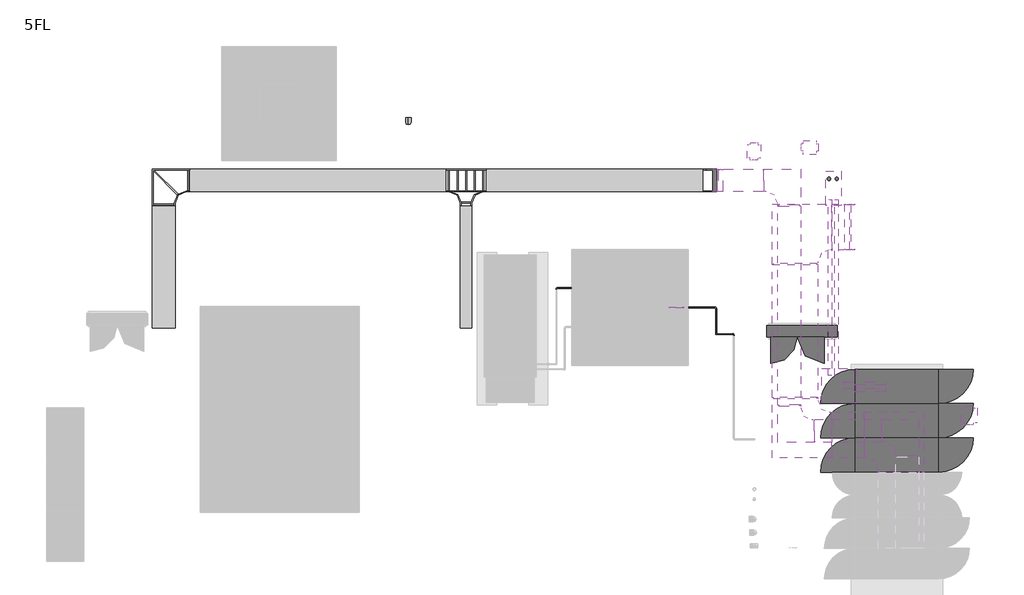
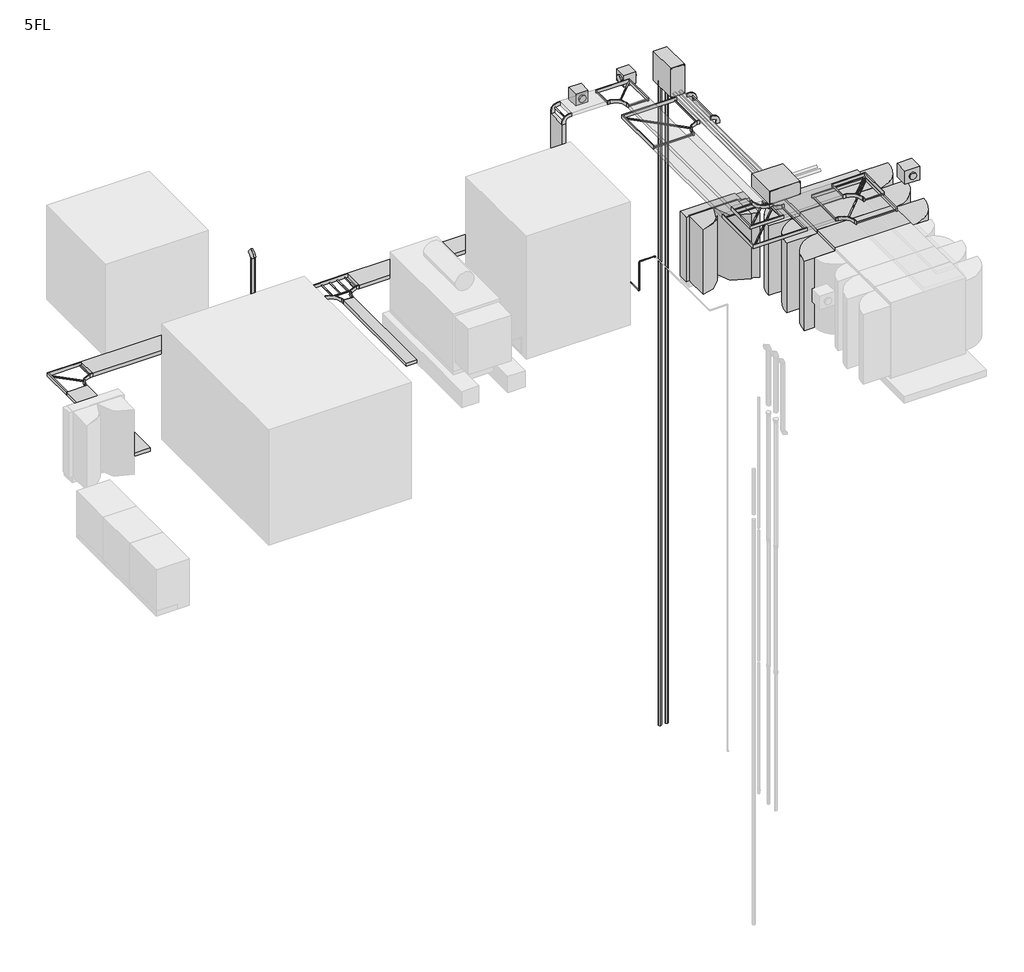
# One storey, part 3 of 3: 17 cable carrier segments, 11 cable carrier fittings, 10 pipe fittings, 10 pipe segments, 5 proxies, 3 electric distribution boards, 3 unitary equipment elements.
"""IFC4 building model written with IfcOpenShell, lengths in millimetres."""

from ifc_helpers import new_model, si_unit, point, frame, frame_2d, origin, place, context, project, spatial, polyline, circle_curve, trimmed, segment, composite_curve, outline, extrude, transform, mapped, element, save
from components import electrical_fixtures_c73e226d, electrical_fixtures_588b28f3, electrical_equipment_99b1dd46, cable_carrier_fitting_95c01ef3, cable_carrier_fitting_33c5562a, cable_carrier_fitting_154c38ec, cable_carrier_fitting_2f9b78bb, cable_carrier_fitting_da1cf44d, cable_carrier_fitting_78c1f1b2, electric_distribution_board_057822bf, electric_distribution_board_7d68dc5e, electric_distribution_board_950_b4ce6e54, common_a5969855, common_bebf707b, unitary_equipment_2_1_2_650m3_h_d17ee650, unitary_equipment_3_1500m3_h_19a96069

model = new_model("IFC4")

# Units and contexts
model_context = context("Model", 3, world=origin())
ifc_project = project(units=[si_unit("LENGTHUNIT", "METRE", prefix="MILLI")], contexts=[model_context])

# Site, building, storey
site = spatial("IfcSite", under=ifc_project)
building = spatial("IfcBuilding", under=site)
storey = spatial("IfcBuildingStorey", under=building, Name="5FL", Elevation=16400.0)

# Proxies
placement = place(None, origin())
electrical_fixtures_shape = electrical_fixtures_c73e226d(model_context)
element("IfcBuildingElementProxy", 1, Name="20206_プルボックス_大_強電用 : 幹線設備", ObjectType="20206_プルボックス_大_強電用 : 幹線設備", at=placement, inside=storey, context=model_context, shape_type="MappedRepresentation", body=[
    mapped(electrical_fixtures_shape, transform((27489.51143, 19127.0500223, 19600.0), x_axis=(1.0, 0.0, 0.0), y_axis=(0.0, 1.0, 0.0), z_axis=(0.0, 0.0, 1.0))),
])
electrical_fixtures_2_shape = electrical_fixtures_588b28f3(model_context)
element("IfcBuildingElementProxy", 2, Name="20206_プルボックス_大_強電用 : 幹線設備", ObjectType="20206_プルボックス_大_強電用 : 幹線設備", at=placement, inside=storey, context=model_context, shape_type="MappedRepresentation", body=[
    mapped(electrical_fixtures_2_shape, transform((27630.0, 13950.0, 19480.0), x_axis=(1.0, 0.0, 0.0), y_axis=(0.0, 1.0, 0.0), z_axis=(0.0, 0.0, 1.0))),
])
electrical_equipment_shape = electrical_equipment_99b1dd46(model_context)
element("IfcBuildingElementProxy", 3, Name="30100_受変電設備_前後面保守形_高圧引込盤・受電盤 : 高圧受電盤", ObjectType="30100_受変電設備_前後面保守形_高圧引込盤・受電盤 : 高圧受電盤", at=placement, inside=storey, context=model_context, shape_type="MappedRepresentation", body=[
    mapped(electrical_equipment_shape, transform((29150.0424675, 13930.0, 16600.0), x_axis=(0.0, 1.0, 0.0), y_axis=(-1.0, 0.0, 0.0), z_axis=(0.0, 0.0, 1.0))),
])
element("IfcBuildingElementProxy", 4, Name="30400_受変電設備_前後面保守形_低圧電灯盤_TR+MCCB : 6.6kV/210-105V_油入_75kVA", ObjectType="30400_受変電設備_前後面保守形_低圧電灯盤_TR+MCCB : 6.6kV/210-105V_油入_75kVA", at=placement, inside=storey, context=model_context, shape_type="MappedRepresentation", body=[
    mapped(electrical_equipment_shape, transform((29150.0424675, 13030.0, 16600.0), x_axis=(0.0, 1.0, 0.0), y_axis=(-1.0, 0.0, 0.0), z_axis=(0.0, 0.0, 1.0))),
])
element("IfcBuildingElementProxy", 5, Name="30400_受変電設備_前後面保守形_低圧電灯盤_TR+MCCB : 6.6kV/210-105V_油入_75kVA", ObjectType="30400_受変電設備_前後面保守形_低圧電灯盤_TR+MCCB : 6.6kV/210-105V_油入_75kVA", at=placement, inside=storey, context=model_context, shape_type="MappedRepresentation", body=[
    mapped(electrical_equipment_shape, transform((29150.0424675, 12130.0, 16600.0), x_axis=(0.0, 1.0, 0.0), y_axis=(-1.0, 0.0, 0.0), z_axis=(0.0, 0.0, 1.0))),
])

# Cable carrier fittings
cable_carrier_fitting_shape = cable_carrier_fitting_95c01ef3(model_context)
element("IfcCableCarrierFitting", 6, ObjectType="Common_はしご垂直内側曲げ : 03 強電_低圧", at=placement, inside=storey, context=model_context, shape_type="MappedRepresentation", body=[
    mapped(cable_carrier_fitting_shape, transform((24375.0, 19336.820725, 16660.0), x_axis=(0.0, 0.0, -1.0), y_axis=(-1.0, 0.0, 0.0), z_axis=(0.0, 1.0, 0.0))),
])
cable_carrier_fitting_2_shape = cable_carrier_fitting_33c5562a(model_context)
element("IfcCableCarrierFitting", 7, ObjectType="Common_L 型接合部、交差梁付き : 03 強電_低圧", at=placement, inside=storey, context=model_context, shape_type="MappedRepresentation", body=[
    mapped(cable_carrier_fitting_2_shape, transform((9920.0, 19336.820725, 16660.0), x_axis=(-1.0, 0.0, 0.0), y_axis=(0.0, -1.0, 0.0), z_axis=(0.0, 0.0, 1.0))),
])
element("IfcCableCarrierFitting", 8, ObjectType="Common_L 型接合部、交差梁付き : 03 強電_低圧", at=placement, inside=storey, context=model_context, shape_type="MappedRepresentation", body=[
    mapped(cable_carrier_fitting_2_shape, transform((26322.1310514, 19336.820725, 19800.0), x_axis=(0.0, 1.0, 0.0), y_axis=(-1.0, 0.0, 0.0), z_axis=(0.0, 0.0, 1.0))),
])
element("IfcCableCarrierFitting", 9, ObjectType="Common_L 型接合部、交差梁付き : 03 強電_低圧", at=placement, inside=storey, context=model_context, shape_type="MappedRepresentation", body=[
    mapped(cable_carrier_fitting_2_shape, transform((29420.0, 12761.820725, 19800.0), x_axis=(0.0, 1.0, 0.0), y_axis=(-1.0, 0.0, 0.0), z_axis=(0.0, 0.0, 1.0))),
])
element("IfcCableCarrierFitting", 10, ObjectType="Common_L 型接合部、交差梁付き : 03 強電_低圧", at=placement, inside=storey, context=model_context, shape_type="MappedRepresentation", body=[
    mapped(cable_carrier_fitting_2_shape, transform((26322.1310514, 12761.820725, 19800.0), x_axis=(0.0, -1.0, 0.0), y_axis=(1.0, 0.0, 0.0), z_axis=(0.0, 0.0, 1.0))),
])
cable_carrier_fitting_3_shape = cable_carrier_fitting_154c38ec(model_context)
element("IfcCableCarrierFitting", 11, ObjectType="Common_はしご垂直外側曲げ : 03 強電_低圧", at=placement, inside=storey, context=model_context, shape_type="MappedRepresentation", body=[
    mapped(cable_carrier_fitting_3_shape, transform((24375.0, 19336.820725, 19800.0), x_axis=(0.0, 0.0, 1.0), y_axis=(1.0, 0.0, 0.0), z_axis=(0.0, 1.0, 0.0))),
])
cable_carrier_fitting_4_shape = cable_carrier_fitting_2f9b78bb(model_context)
element("IfcCableCarrierFitting", 12, ObjectType="Common_はしご水平ティー : 03 強電_低圧", at=placement, inside=storey, context=model_context, shape_type="MappedRepresentation", body=[
    mapped(cable_carrier_fitting_4_shape, transform((17852.5, 19336.820725, 16660.0), x_axis=(1.0, 0.0, 0.0), y_axis=(0.0, 1.0, 0.0), z_axis=(0.0, 0.0, 1.0))),
])
cable_carrier_fitting_5_shape = cable_carrier_fitting_da1cf44d(model_context)
element("IfcCableCarrierFitting", 13, ObjectType="Common_はしご垂直外側曲げ : 03 強電_低圧", at=placement, inside=storey, context=model_context, shape_type="MappedRepresentation", body=[
    mapped(cable_carrier_fitting_5_shape, transform((27995.0, 18111.820725, 19500.0), x_axis=(1.0, 0.0, 0.0), y_axis=(0.0, 0.0, -1.0), z_axis=(0.0, 1.0, 0.0))),
])
cable_carrier_fitting_6_shape = cable_carrier_fitting_78c1f1b2(model_context)
element("IfcCableCarrierFitting", 14, ObjectType="Common_L 型接合部、交差梁付き : 03 強電_低圧", at=placement, inside=storey, context=model_context, shape_type="MappedRepresentation", body=[
    mapped(cable_carrier_fitting_6_shape, transform((29257.1310514, 12656.820725, 19500.0), x_axis=(0.0, 1.0, 0.0), y_axis=(-1.0, 0.0, 0.0), z_axis=(0.0, 0.0, 1.0))),
])
element("IfcCableCarrierFitting", 15, ObjectType="Common_L 型接合部、交差梁付き : 03 強電_低圧", at=placement, inside=storey, context=model_context, shape_type="MappedRepresentation", body=[
    mapped(cable_carrier_fitting_6_shape, transform((26477.1310514, 12656.820725, 19500.0), x_axis=(0.0, -1.0, 0.0), y_axis=(1.0, 0.0, 0.0), z_axis=(0.0, 0.0, 1.0))),
])
element("IfcCableCarrierFitting", 16, ObjectType="Common_L 型接合部、交差梁付き : 03 強電_低圧", at=placement, inside=storey, context=model_context, shape_type="MappedRepresentation", body=[
    mapped(cable_carrier_fitting_6_shape, transform((26477.1310514, 18111.820725, 19500.0), x_axis=(-1.0, 0.0, 0.0), y_axis=(0.0, -1.0, 0.0), z_axis=(0.0, 0.0, 1.0))),
])

# Cable carrier segments
element("IfcCableCarrierSegment", 17, ObjectType="03 強電_低圧", at=placement, inside=storey, context=model_context, shape_type="SweptSolid", body=[
    extrude(outline(polyline([(27077.1310514, 13636.820725), (25877.1310514, 13636.820725), (25877.1310514, 17131.820725), (27077.1310514, 17131.820725), (27077.1310514, 13636.820725)])), frame((0.0, 0.0, 19450.0), z_axis=(0.0, 0.0, 1.0), x_axis=(1.0, 0.0, 0.0)), (0.0, 0.0, 1.0), 100.0),
])
element("IfcCableCarrierSegment", 18, ObjectType="03 強電_低圧", at=placement, inside=storey, context=model_context, shape_type="SweptSolid", body=[
    extrude(outline(polyline([(24595.0, 19036.820725), (24595.0, 19636.820725), (25642.1310514, 19636.820725), (25642.1310514, 19036.820725), (24595.0, 19036.820725)])), frame((0.0, 0.0, 19750.0), z_axis=(0.0, 0.0, 1.0), x_axis=(1.0, 0.0, 0.0)), (0.0, 0.0, 1.0), 100.0),
])
element("IfcCableCarrierSegment", 19, ObjectType="03 強電_低圧", at=placement, inside=storey, context=model_context, shape_type="SweptSolid", body=[
    extrude(outline(polyline([(26022.1310514, 18656.820725), (26622.1310514, 18656.820725), (26622.1310514, 13441.820725), (26022.1310514, 13441.820725), (26022.1310514, 18656.820725)])), frame((0.0, 0.0, 19750.0), z_axis=(0.0, 0.0, 1.0), x_axis=(1.0, 0.0, 0.0)), (0.0, 0.0, 1.0), 100.0),
])
element("IfcCableCarrierSegment", 20, ObjectType="03 強電_低圧", at=placement, inside=storey, context=model_context, shape_type="SweptSolid", body=[
    extrude(outline(polyline([(27457.1310514, 12056.820725), (27457.1310514, 13256.820725), (28277.1310514, 13256.820725), (28277.1310514, 12056.820725), (27457.1310514, 12056.820725)])), frame((0.0, 0.0, 19450.0), z_axis=(0.0, 0.0, 1.0), x_axis=(1.0, 0.0, 0.0)), (0.0, 0.0, 1.0), 100.0),
])
element("IfcCableCarrierSegment", 21, ObjectType="03 強電_低圧", at=placement, inside=storey, context=model_context, shape_type="SweptSolid", body=[
    extrude(outline(polyline([(28740.0, 13061.820725), (28740.0, 12461.820725), (27002.1310514, 12461.820725), (27002.1310514, 13061.820725), (28740.0, 13061.820725)])), frame((0.0, 0.0, 19750.0), z_axis=(0.0, 0.0, 1.0), x_axis=(1.0, 0.0, 0.0)), (0.0, 0.0, 1.0), 100.0),
])
element("IfcCableCarrierSegment", 22, ObjectType="011_厚鋼電線管_G_強電", at=placement, inside=storey, context=model_context, shape_type="SweptSolid", body=[
    extrude(outline(composite_curve([segment(trimmed(circle_curve(frame_2d((19700.0, 27569.6857911)), 43.95), [point((19700.0, 27525.7357911))], [point((19656.05, 27569.6857911))], False, "CARTESIAN"), True, "CONTINUOUS"), segment(trimmed(circle_curve(frame_2d((19700.0, 27569.6857911)), 43.95), [point((19656.05, 27569.6857911))], [point((19700.0, 27613.6357911))], False, "CARTESIAN"), True, "CONTINUOUS"), segment(trimmed(circle_curve(frame_2d((19700.0, 27569.6857911)), 43.95), [point((19700.0, 27613.6357911))], [point((19743.95, 27569.6857911))], False, "CARTESIAN"), True, "CONTINUOUS"), segment(trimmed(circle_curve(frame_2d((19700.0, 27569.6857911)), 43.95), [point((19743.95, 27569.6857911))], [point((19700.0, 27525.7357911))], False, "CARTESIAN"), True, "CONTINUOUS")], self_intersect=False)), frame((0.0, 14212.0557487, 0.0), z_axis=(0.0, 1.0, 0.0), x_axis=(0.0, 0.0, 1.0)), (0.0, 0.0, 1.0), 4620.0),
])
element("IfcCableCarrierSegment", 23, ObjectType="011_厚鋼電線管_G_強電", at=placement, inside=storey, context=model_context, shape_type="SweptSolid", body=[
    extrude(outline(composite_curve([segment(trimmed(circle_curve(frame_2d((13827.0557487, 19756.05)), 43.95), [point((13783.1057487, 19756.05))], [point((13827.0557487, 19800.0))], False, "CARTESIAN"), True, "CONTINUOUS"), segment(trimmed(circle_curve(frame_2d((13827.0557487, 19756.05)), 43.95), [point((13827.0557487, 19800.0))], [point((13871.0057487, 19756.05))], False, "CARTESIAN"), True, "CONTINUOUS"), segment(trimmed(circle_curve(frame_2d((13827.0557487, 19756.05)), 43.95), [point((13871.0057487, 19756.05))], [point((13827.0557487, 19712.1))], False, "CARTESIAN"), True, "CONTINUOUS"), segment(trimmed(circle_curve(frame_2d((13827.0557487, 19756.05)), 43.95), [point((13827.0557487, 19712.1))], [point((13783.1057487, 19756.05))], False, "CARTESIAN"), True, "CONTINUOUS")], self_intersect=False)), frame((27754.6857911, 0.0, 0.0), z_axis=(1.0, 0.0, 0.0), x_axis=(0.0, 1.0, 0.0)), (0.0, 0.0, 1.0), 1100.0),
])
element("IfcCableCarrierSegment", 24, ObjectType="011_厚鋼電線管_G_強電", at=placement, inside=storey, context=model_context, shape_type="SweptSolid", body=[
    extrude(outline(composite_curve([segment(trimmed(circle_curve(frame_2d((27367.6934111, 19378.4621584)), 43.95), [point((27411.6434111, 19378.4621584))], [point((27367.6934111, 19334.5121584))], False, "CARTESIAN"), True, "CONTINUOUS"), segment(trimmed(circle_curve(frame_2d((27367.6934111, 19378.4621584)), 43.95), [point((27367.6934111, 19334.5121584))], [point((27323.7434111, 19378.4621584))], False, "CARTESIAN"), True, "CONTINUOUS"), segment(trimmed(circle_curve(frame_2d((27367.6934111, 19378.4621584)), 43.95), [point((27323.7434111, 19378.4621584))], [point((27367.6934111, 19422.4121584))], False, "CARTESIAN"), True, "CONTINUOUS"), segment(trimmed(circle_curve(frame_2d((27367.6934111, 19378.4621584)), 43.95), [point((27367.6934111, 19422.4121584))], [point((27411.6434111, 19378.4621584))], False, "CARTESIAN"), True, "CONTINUOUS")], self_intersect=False)), frame((0.0, 0.0, -219.9985502), z_axis=(0.0, 0.0, 1.0), x_axis=(1.0, 0.0, 0.0)), (0.0, 0.0, 1.0), 19900.0),
])
element("IfcCableCarrierSegment", 25, ObjectType="011_厚鋼電線管_G_強電", at=placement, inside=storey, context=model_context, shape_type="SweptSolid", body=[
    extrude(outline(composite_curve([segment(trimmed(circle_curve(frame_2d((14007.0557487, 19756.05)), 43.95), [point((14051.0057487, 19756.05))], [point((14007.0557487, 19712.1))], False, "CARTESIAN"), True, "CONTINUOUS"), segment(trimmed(circle_curve(frame_2d((14007.0557487, 19756.05)), 43.95), [point((14007.0557487, 19712.1))], [point((13963.1057487, 19756.05))], False, "CARTESIAN"), True, "CONTINUOUS"), segment(trimmed(circle_curve(frame_2d((14007.0557487, 19756.05)), 43.95), [point((13963.1057487, 19756.05))], [point((14007.0557487, 19800.0))], False, "CARTESIAN"), True, "CONTINUOUS"), segment(trimmed(circle_curve(frame_2d((14007.0557487, 19756.05)), 43.95), [point((14007.0557487, 19800.0))], [point((14051.0057487, 19756.05))], False, "CARTESIAN"), True, "CONTINUOUS")], self_intersect=False)), frame((27754.6857911, 0.0, 0.0), z_axis=(1.0, 0.0, 0.0), x_axis=(0.0, 1.0, 0.0)), (0.0, 0.0, 1.0), 1100.0),
])
element("IfcCableCarrierSegment", 26, ObjectType="011_厚鋼電線管_G_強電", at=placement, inside=storey, context=model_context, shape_type="SweptSolid", body=[
    extrude(outline(composite_curve([segment(trimmed(circle_curve(frame_2d((19700.0, 27394.6857911)), 43.95), [point((19700.0, 27438.6357911))], [point((19743.95, 27394.6857911))], False, "CARTESIAN"), True, "CONTINUOUS"), segment(trimmed(circle_curve(frame_2d((19700.0, 27394.6857911)), 43.95), [point((19743.95, 27394.6857911))], [point((19700.0, 27350.7357911))], False, "CARTESIAN"), True, "CONTINUOUS"), segment(trimmed(circle_curve(frame_2d((19700.0, 27394.6857911)), 43.95), [point((19700.0, 27350.7357911))], [point((19656.05, 27394.6857911))], False, "CARTESIAN"), True, "CONTINUOUS"), segment(trimmed(circle_curve(frame_2d((19700.0, 27394.6857911)), 43.95), [point((19656.05, 27394.6857911))], [point((19700.0, 27438.6357911))], False, "CARTESIAN"), True, "CONTINUOUS")], self_intersect=False)), frame((0.0, 14212.0557487, 0.0), z_axis=(0.0, 1.0, 0.0), x_axis=(0.0, 0.0, 1.0)), (0.0, 0.0, 1.0), 4620.0),
])
element("IfcCableCarrierSegment", 27, ObjectType="011_厚鋼電線管_G_強電", at=placement, inside=storey, context=model_context, shape_type="SweptSolid", body=[
    extrude(outline(composite_curve([segment(trimmed(circle_curve(frame_2d((27571.1896011, 19378.385726)), 43.95), [point((27527.2396011, 19378.385726))], [point((27571.1896011, 19422.335726))], False, "CARTESIAN"), True, "CONTINUOUS"), segment(trimmed(circle_curve(frame_2d((27571.1896011, 19378.385726)), 43.95), [point((27571.1896011, 19422.335726))], [point((27615.1396011, 19378.385726))], False, "CARTESIAN"), True, "CONTINUOUS"), segment(trimmed(circle_curve(frame_2d((27571.1896011, 19378.385726)), 43.95), [point((27615.1396011, 19378.385726))], [point((27571.1896011, 19334.435726))], False, "CARTESIAN"), True, "CONTINUOUS"), segment(trimmed(circle_curve(frame_2d((27571.1896011, 19378.385726)), 43.95), [point((27571.1896011, 19334.435726))], [point((27527.2396011, 19378.385726))], False, "CARTESIAN"), True, "CONTINUOUS")], self_intersect=False)), frame((0.0, 0.0, -219.9985502), z_axis=(0.0, 0.0, 1.0), x_axis=(1.0, 0.0, 0.0)), (0.0, 0.0, 1.0), 19900.0),
])
element("IfcCableCarrierSegment", 28, ObjectType="03 強電_低圧", at=placement, inside=storey, context=model_context, shape_type="SweptSolid", body=[
    extrude(outline(polyline([(24425.0, 19636.820725), (24425.0, 19036.820725), (24325.0, 19036.820725), (24325.0, 19636.820725), (24425.0, 19636.820725)])), frame((0.0, 0.0, 16970.0), z_axis=(0.0, 0.0, 1.0), x_axis=(1.0, 0.0, 0.0)), (0.0, 0.0, 1.0), 2610.0),
])
element("IfcCableCarrierSegment", 29, ObjectType="03 強電_低圧", at=placement, inside=storey, context=model_context, shape_type="SweptSolid", body=[
    extrude(outline(polyline([(17322.5, 19636.820725), (17322.5, 19036.820725), (10600.0, 19036.820725), (10600.0, 19636.820725), (17322.5, 19636.820725)])), frame((0.0, 0.0, 16610.0), z_axis=(0.0, 0.0, 1.0), x_axis=(1.0, 0.0, 0.0)), (0.0, 0.0, 1.0), 100.0),
])
element("IfcCableCarrierSegment", 30, ObjectType="03 強電_低圧", at=placement, inside=storey, context=model_context, shape_type="SweptSolid", body=[
    extrude(outline(polyline([(9620.0, 18656.820725), (10220.0, 18656.820725), (10220.0, 15461.820725), (9620.0, 15461.820725), (9620.0, 18656.820725)])), frame((0.0, 0.0, 16610.0), z_axis=(0.0, 0.0, 1.0), x_axis=(1.0, 0.0, 0.0)), (0.0, 0.0, 1.0), 100.0),
])
element("IfcCableCarrierSegment", 31, ObjectType="03 強電_低圧", at=placement, inside=storey, context=model_context, shape_type="SweptSolid", body=[
    extrude(outline(polyline([(17702.5, 18656.820725), (18002.5, 18656.820725), (18002.5, 15461.820725), (17702.5, 15461.820725), (17702.5, 18656.820725)])), frame((0.0, 0.0, 16610.0), z_axis=(0.0, 0.0, 1.0), x_axis=(1.0, 0.0, 0.0)), (0.0, 0.0, 1.0), 100.0),
])
element("IfcCableCarrierSegment", 32, ObjectType="03 強電_低圧", at=placement, inside=storey, context=model_context, shape_type="SweptSolid", body=[
    extrude(outline(polyline([(24065.0, 19636.820725), (24065.0, 19036.820725), (18382.5, 19036.820725), (18382.5, 19636.820725), (24065.0, 19636.820725)])), frame((0.0, 0.0, 16610.0), z_axis=(0.0, 0.0, 1.0), x_axis=(1.0, 0.0, 0.0)), (0.0, 0.0, 1.0), 100.0),
])
element("IfcCableCarrierSegment", 33, ObjectType="03 強電_低圧", at=placement, inside=storey, context=model_context, shape_type="SweptSolid", body=[
    extrude(outline(polyline([(27775.0, 18711.820725), (27775.0, 17511.820725), (27457.1310514, 17511.820725), (27457.1310514, 18711.820725), (27775.0, 18711.820725)])), frame((0.0, 0.0, 19450.0), z_axis=(0.0, 0.0, 1.0), x_axis=(1.0, 0.0, 0.0)), (0.0, 0.0, 1.0), 100.0),
])

# Electric distribution boards
electric_distribution_board_shape = electric_distribution_board_057822bf(model_context)
element("IfcElectricDistributionBoard", 34, ObjectType="21300_制御盤 : 両扉", at=placement, inside=storey, context=model_context, shape_type="MappedRepresentation", body=[
    mapped(electric_distribution_board_shape, transform((26540.0, 15580.0, 16400.0), x_axis=(1.0, 0.0, 0.0), y_axis=(0.0, 1.0, 0.0), z_axis=(0.0, 0.0, 1.0))),
])
electric_distribution_board_2_shape = electric_distribution_board_7d68dc5e(model_context)
element("IfcElectricDistributionBoard", 35, ObjectType="20800_分電盤 : 右扉", at=placement, inside=storey, context=model_context, shape_type="MappedRepresentation", body=[
    mapped(electric_distribution_board_2_shape, transform((27140.0, 15580.0, 16400.0), x_axis=(1.0, 0.0, 0.0), y_axis=(0.0, 1.0, 0.0), z_axis=(0.0, 0.0, 1.0))),
])
electric_distribution_board_950_shape = electric_distribution_board_950_b4ce6e54(model_context)
element("IfcElectricDistributionBoard", 36, ObjectType="50006_発電設備_TOSG_燃料小出槽_屋外型 : 950", at=placement, inside=storey, context=model_context, shape_type="MappedRepresentation", body=[
    mapped(electric_distribution_board_950_shape, transform((22153.8750405, 16000.0, 16400.0), x_axis=(1.0, 0.0, 0.0), y_axis=(0.0, 1.0, 0.0), z_axis=(0.0, 0.0, 1.0))),
])

# Pipe fittings
common_shape = common_a5969855(model_context)
element("IfcPipeFitting", 37, ObjectType="011_エルボ : Common", at=placement, inside=storey, context=model_context, shape_type="MappedRepresentation", body=[
    mapped(common_shape, transform((16340.0, 20870.0, 17300.0), x_axis=(0.0, 0.0, 1.0), y_axis=(0.0, 1.0, 0.0), z_axis=(-1.0, 0.0, 0.0))),
])
common_2_shape = common_bebf707b(model_context)
element("IfcPipeFitting", 38, ObjectType="011_エルボ : Common", at=placement, inside=storey, context=model_context, shape_type="MappedRepresentation", body=[
    mapped(common_2_shape, transform((20803.4571217, 16512.5, 16799.9990629), x_axis=(0.0, 0.0, 1.0), y_axis=(1.0, 0.0, 0.0), z_axis=(0.0, 1.0, 0.0))),
])
element("IfcPipeFitting", 39, ObjectType="011_エルボ : Common", at=placement, inside=storey, context=model_context, shape_type="MappedRepresentation", body=[
    mapped(common_2_shape, transform((23551.2280535, 16000.0, 19100.0), x_axis=(1.0, 0.0, 0.0), y_axis=(0.0, 0.0, -1.0), z_axis=(0.0, 1.0, 0.0))),
])
element("IfcPipeFitting", 40, ObjectType="011_エルボ : Common", at=placement, inside=storey, context=model_context, shape_type="MappedRepresentation", body=[
    mapped(common_2_shape, transform((24411.2280535, 15300.0, 16700.0), x_axis=(0.0, 0.0, -1.0), y_axis=(0.0, 1.0, 0.0), z_axis=(1.0, 0.0, 0.0))),
])
element("IfcPipeFitting", 41, ObjectType="011_エルボ : Common", at=placement, inside=storey, context=model_context, shape_type="MappedRepresentation", body=[
    mapped(common_2_shape, transform((24411.2280535, 16000.0, 16700.0), x_axis=(0.0, 1.0, 0.0), y_axis=(-1.0, 0.0, 0.0), z_axis=(0.0, 0.0, 1.0))),
])
element("IfcPipeFitting", 42, ObjectType="011_エルボ : Common", at=placement, inside=storey, context=model_context, shape_type="MappedRepresentation", body=[
    mapped(common_2_shape, transform((23551.2280535, 16000.0, 16700.0), x_axis=(0.0, 0.0, -1.0), y_axis=(1.0, 0.0, 0.0), z_axis=(0.0, -1.0, 0.0))),
])
element("IfcPipeFitting", 43, ObjectType="011_エルボ : Common", at=placement, inside=storey, context=model_context, shape_type="MappedRepresentation", body=[
    mapped(common_2_shape, transform((20222.6030474, 16512.5, 16700.0), x_axis=(-1.0, 0.0, 0.0), y_axis=(0.0, -1.0, 0.0), z_axis=(0.0, 0.0, 1.0))),
])
element("IfcPipeFitting", 44, ObjectType="011_エルボ : Common", at=placement, inside=storey, context=model_context, shape_type="MappedRepresentation", body=[
    mapped(common_2_shape, transform((20803.4571217, 16512.5, 16700.0), x_axis=(0.0, 0.0, -1.0), y_axis=(-1.0, 0.0, 0.0), z_axis=(0.0, 1.0, 0.0))),
])
element("IfcPipeFitting", 45, ObjectType="011_エルボ : Common", at=placement, inside=storey, context=model_context, shape_type="MappedRepresentation", body=[
    mapped(common_2_shape, transform((24873.2280535, 15300.0, 17600.0), x_axis=(0.0, 1.0, 0.0), y_axis=(-1.0, 0.0, 0.0), z_axis=(0.0, 0.0, 1.0))),
])
element("IfcPipeFitting", 46, ObjectType="011_エルボ : Common", at=placement, inside=storey, context=model_context, shape_type="MappedRepresentation", body=[
    mapped(common_2_shape, transform((24411.2280535, 15300.0, 17600.0), x_axis=(0.0, 0.0, 1.0), y_axis=(1.0, 0.0, 0.0), z_axis=(0.0, 1.0, 0.0))),
])

# Pipe segments
element("IfcPipeSegment", 47, ObjectType="00_供給", at=placement, inside=storey, context=model_context, shape_type="SweptSolid", body=[
    extrude(outline(composite_curve([segment(trimmed(circle_curve(frame_2d((16512.5, 16799.9990629)), 10.85), [point((16501.65, 16799.9990629))], [point((16512.5, 16810.8490629))], False, "CARTESIAN"), True, "CONTINUOUS"), segment(trimmed(circle_curve(frame_2d((16512.5, 16799.9990629)), 10.85), [point((16512.5, 16810.8490629))], [point((16523.35, 16799.9990629))], False, "CARTESIAN"), True, "CONTINUOUS"), segment(trimmed(circle_curve(frame_2d((16512.5, 16799.9990629)), 10.85), [point((16523.35, 16799.9990629))], [point((16512.5, 16789.1490629))], False, "CARTESIAN"), True, "CONTINUOUS"), segment(trimmed(circle_curve(frame_2d((16512.5, 16799.9990629)), 10.85), [point((16512.5, 16789.1490629))], [point((16501.65, 16799.9990629))], False, "CARTESIAN"), True, "CONTINUOUS")], self_intersect=False)), frame((20830.4571217, 0.0, 0.0), z_axis=(1.0, 0.0, 0.0), x_axis=(0.0, 1.0, 0.0)), (0.0, 0.0, 1.0), 278.4179188),
])
element("IfcPipeSegment", 48, ObjectType="00_供給", at=placement, inside=storey, context=model_context, shape_type="SweptSolid", body=[
    extrude(outline(composite_curve([segment(trimmed(circle_curve(frame_2d((15300.0, 17600.0)), 10.85), [point((15310.85, 17600.0))], [point((15300.0, 17589.15))], False, "CARTESIAN"), True, "CONTINUOUS"), segment(trimmed(circle_curve(frame_2d((15300.0, 17600.0)), 10.85), [point((15300.0, 17589.15))], [point((15289.15, 17600.0))], False, "CARTESIAN"), True, "CONTINUOUS"), segment(trimmed(circle_curve(frame_2d((15300.0, 17600.0)), 10.85), [point((15289.15, 17600.0))], [point((15300.0, 17610.85))], False, "CARTESIAN"), True, "CONTINUOUS"), segment(trimmed(circle_curve(frame_2d((15300.0, 17600.0)), 10.85), [point((15300.0, 17610.85))], [point((15310.85, 17600.0))], False, "CARTESIAN"), True, "CONTINUOUS")], self_intersect=False)), frame((24438.2280535, 0.0, 0.0), z_axis=(1.0, 0.0, 0.0), x_axis=(0.0, 1.0, 0.0)), (0.0, 0.0, 1.0), 408.0),
])
element("IfcPipeSegment", 49, ObjectType="00_供給", at=placement, inside=storey, context=model_context, shape_type="SweptSolid", body=[
    extrude(outline(composite_curve([segment(trimmed(circle_curve(frame_2d((20803.4571217, 16512.5)), 10.85), [point((20792.6071217, 16512.5))], [point((20803.4571217, 16523.35))], False, "CARTESIAN"), True, "CONTINUOUS"), segment(trimmed(circle_curve(frame_2d((20803.4571217, 16512.5)), 10.85), [point((20803.4571217, 16523.35))], [point((20814.3071217, 16512.5))], False, "CARTESIAN"), True, "CONTINUOUS"), segment(trimmed(circle_curve(frame_2d((20803.4571217, 16512.5)), 10.85), [point((20814.3071217, 16512.5))], [point((20803.4571217, 16501.65))], False, "CARTESIAN"), True, "CONTINUOUS"), segment(trimmed(circle_curve(frame_2d((20803.4571217, 16512.5)), 10.85), [point((20803.4571217, 16501.65))], [point((20792.6071217, 16512.5))], False, "CARTESIAN"), True, "CONTINUOUS")], self_intersect=False)), frame((0.0, 0.0, 16727.0), z_axis=(0.0, 0.0, 1.0), x_axis=(1.0, 0.0, 0.0)), (0.0, 0.0, 1.0), 45.9990629),
])
element("IfcPipeSegment", 50, ObjectType="00_供給", at=placement, inside=storey, context=model_context, shape_type="SweptSolid", body=[
    extrude(outline(composite_curve([segment(trimmed(circle_curve(frame_2d((16512.5, 16700.0)), 10.85), [point((16501.65, 16700.0))], [point((16512.5, 16710.85))], False, "CARTESIAN"), True, "CONTINUOUS"), segment(trimmed(circle_curve(frame_2d((16512.5, 16700.0)), 10.85), [point((16512.5, 16710.85))], [point((16523.35, 16700.0))], False, "CARTESIAN"), True, "CONTINUOUS"), segment(trimmed(circle_curve(frame_2d((16512.5, 16700.0)), 10.85), [point((16523.35, 16700.0))], [point((16512.5, 16689.15))], False, "CARTESIAN"), True, "CONTINUOUS"), segment(trimmed(circle_curve(frame_2d((16512.5, 16700.0)), 10.85), [point((16512.5, 16689.15))], [point((16501.65, 16700.0))], False, "CARTESIAN"), True, "CONTINUOUS")], self_intersect=False)), frame((20249.6030474, 0.0, 0.0), z_axis=(1.0, 0.0, 0.0), x_axis=(0.0, 1.0, 0.0)), (0.0, 0.0, 1.0), 526.8540743),
])
element("IfcPipeSegment", 51, ObjectType="00_供給", at=placement, inside=storey, context=model_context, shape_type="SweptSolid", body=[
    extrude(outline(composite_curve([segment(trimmed(circle_curve(frame_2d((16000.0, 19100.0)), 10.85), [point((16010.85, 19100.0))], [point((16000.0, 19089.15))], False, "CARTESIAN"), True, "CONTINUOUS"), segment(trimmed(circle_curve(frame_2d((16000.0, 19100.0)), 10.85), [point((16000.0, 19089.15))], [point((15989.15, 19100.0))], False, "CARTESIAN"), True, "CONTINUOUS"), segment(trimmed(circle_curve(frame_2d((16000.0, 19100.0)), 10.85), [point((15989.15, 19100.0))], [point((16000.0, 19110.85))], False, "CARTESIAN"), True, "CONTINUOUS"), segment(trimmed(circle_curve(frame_2d((16000.0, 19100.0)), 10.85), [point((16000.0, 19110.85))], [point((16010.85, 19100.0))], False, "CARTESIAN"), True, "CONTINUOUS")], self_intersect=False)), frame((23178.8750405, 0.0, 0.0), z_axis=(1.0, 0.0, 0.0), x_axis=(0.0, 1.0, 0.0)), (0.0, 0.0, 1.0), 345.3530131),
])
element("IfcPipeSegment", 52, ObjectType="00_供給", at=placement, inside=storey, context=model_context, shape_type="SweptSolid", body=[
    extrude(outline(composite_curve([segment(trimmed(circle_curve(frame_2d((16700.0, 24411.2280535)), 10.85), [point((16700.0, 24422.0780535))], [point((16710.85, 24411.2280535))], False, "CARTESIAN"), True, "CONTINUOUS"), segment(trimmed(circle_curve(frame_2d((16700.0, 24411.2280535)), 10.85), [point((16710.85, 24411.2280535))], [point((16700.0, 24400.3780535))], False, "CARTESIAN"), True, "CONTINUOUS"), segment(trimmed(circle_curve(frame_2d((16700.0, 24411.2280535)), 10.85), [point((16700.0, 24400.3780535))], [point((16689.15, 24411.2280535))], False, "CARTESIAN"), True, "CONTINUOUS"), segment(trimmed(circle_curve(frame_2d((16700.0, 24411.2280535)), 10.85), [point((16689.15, 24411.2280535))], [point((16700.0, 24422.0780535))], False, "CARTESIAN"), True, "CONTINUOUS")], self_intersect=False)), frame((0.0, 15327.0, 0.0), z_axis=(0.0, 1.0, 0.0), x_axis=(0.0, 0.0, 1.0)), (0.0, 0.0, 1.0), 646.0),
])
element("IfcPipeSegment", 53, ObjectType="00_供給", at=placement, inside=storey, context=model_context, shape_type="SweptSolid", body=[
    extrude(outline(composite_curve([segment(trimmed(circle_curve(frame_2d((24411.2280535, 15300.0)), 10.85), [point((24422.0780535, 15300.0))], [point((24411.2280535, 15289.15))], False, "CARTESIAN"), True, "CONTINUOUS"), segment(trimmed(circle_curve(frame_2d((24411.2280535, 15300.0)), 10.85), [point((24411.2280535, 15289.15))], [point((24400.3780535, 15300.0))], False, "CARTESIAN"), True, "CONTINUOUS"), segment(trimmed(circle_curve(frame_2d((24411.2280535, 15300.0)), 10.85), [point((24400.3780535, 15300.0))], [point((24411.2280535, 15310.85))], False, "CARTESIAN"), True, "CONTINUOUS"), segment(trimmed(circle_curve(frame_2d((24411.2280535, 15300.0)), 10.85), [point((24411.2280535, 15310.85))], [point((24422.0780535, 15300.0))], False, "CARTESIAN"), True, "CONTINUOUS")], self_intersect=False)), frame((0.0, 0.0, 16727.0), z_axis=(0.0, 0.0, 1.0), x_axis=(1.0, 0.0, 0.0)), (0.0, 0.0, 1.0), 846.0),
])
element("IfcPipeSegment", 54, ObjectType="00_供給", at=placement, inside=storey, context=model_context, shape_type="SweptSolid", body=[
    extrude(outline(composite_curve([segment(trimmed(circle_curve(frame_2d((23551.2280535, 16000.0)), 10.85), [point((23540.3780535, 16000.0))], [point((23551.2280535, 16010.85))], False, "CARTESIAN"), True, "CONTINUOUS"), segment(trimmed(circle_curve(frame_2d((23551.2280535, 16000.0)), 10.85), [point((23551.2280535, 16010.85))], [point((23562.0780535, 16000.0))], False, "CARTESIAN"), True, "CONTINUOUS"), segment(trimmed(circle_curve(frame_2d((23551.2280535, 16000.0)), 10.85), [point((23562.0780535, 16000.0))], [point((23551.2280535, 15989.15))], False, "CARTESIAN"), True, "CONTINUOUS"), segment(trimmed(circle_curve(frame_2d((23551.2280535, 16000.0)), 10.85), [point((23551.2280535, 15989.15))], [point((23540.3780535, 16000.0))], False, "CARTESIAN"), True, "CONTINUOUS")], self_intersect=False)), frame((0.0, 0.0, 16727.0), z_axis=(0.0, 0.0, 1.0), x_axis=(1.0, 0.0, 0.0)), (0.0, 0.0, 1.0), 2346.0),
])
element("IfcPipeSegment", 55, ObjectType="00_供給", at=placement, inside=storey, context=model_context, shape_type="SweptSolid", body=[
    extrude(outline(composite_curve([segment(trimmed(circle_curve(frame_2d((16000.0, 16700.0)), 10.85), [point((16010.85, 16700.0))], [point((16000.0, 16689.15))], False, "CARTESIAN"), True, "CONTINUOUS"), segment(trimmed(circle_curve(frame_2d((16000.0, 16700.0)), 10.85), [point((16000.0, 16689.15))], [point((15989.15, 16700.0))], False, "CARTESIAN"), True, "CONTINUOUS"), segment(trimmed(circle_curve(frame_2d((16000.0, 16700.0)), 10.85), [point((15989.15, 16700.0))], [point((16000.0, 16710.85))], False, "CARTESIAN"), True, "CONTINUOUS"), segment(trimmed(circle_curve(frame_2d((16000.0, 16700.0)), 10.85), [point((16000.0, 16710.85))], [point((16010.85, 16700.0))], False, "CARTESIAN"), True, "CONTINUOUS")], self_intersect=False)), frame((23578.2280535, 0.0, 0.0), z_axis=(1.0, 0.0, 0.0), x_axis=(0.0, 1.0, 0.0)), (0.0, 0.0, 1.0), 806.0),
])
element("IfcPipeSegment", 56, ObjectType="00_排水", at=placement, inside=storey, context=model_context, shape_type="SweptSolid", body=[
    extrude(outline(composite_curve([segment(trimmed(circle_curve(frame_2d((16340.0, 20870.0)), 57.15), [point((16282.85, 20870.0))], [point((16340.0, 20927.15))], False, "CARTESIAN"), True, "CONTINUOUS"), segment(trimmed(circle_curve(frame_2d((16340.0, 20870.0)), 57.15), [point((16340.0, 20927.15))], [point((16397.15, 20870.0))], False, "CARTESIAN"), True, "CONTINUOUS"), segment(trimmed(circle_curve(frame_2d((16340.0, 20870.0)), 57.15), [point((16397.15, 20870.0))], [point((16340.0, 20812.85))], False, "CARTESIAN"), True, "CONTINUOUS"), segment(trimmed(circle_curve(frame_2d((16340.0, 20870.0)), 57.15), [point((16340.0, 20812.85))], [point((16282.85, 20870.0))], False, "CARTESIAN"), True, "CONTINUOUS")], self_intersect=False)), frame((0.0, 0.0, 15671.7582106), z_axis=(0.0, 0.0, 1.0), x_axis=(1.0, 0.0, 0.0)), (0.0, 0.0, 1.0), 1516.2417894),
])

# Unitary equipment
unitary_equipment_2_1_2_650m3_h_shape = unitary_equipment_2_1_2_650m3_h_d17ee650(model_context)
element("IfcUnitaryEquipment", 57, ObjectType="11021_FAN_斜流送風機 : #2 1/2_650m3/h", at=placement, inside=storey, context=model_context, shape_type="MappedRepresentation", body=[
    mapped(unitary_equipment_2_1_2_650m3_h_shape, transform((26866.1310514, 20199.3205322, 19500.0), x_axis=(1.0, 0.0, 0.0), y_axis=(0.0, 1.0, 0.0), z_axis=(0.0, 0.0, 1.0))),
])
element("IfcUnitaryEquipment", 58, ObjectType="11021_FAN_斜流送風機 : #2 1/2_650m3/h", at=placement, inside=storey, context=model_context, shape_type="MappedRepresentation", body=[
    mapped(unitary_equipment_2_1_2_650m3_h_shape, transform((25402.1310514, 20099.3205322, 19500.0), x_axis=(0.0, 1.0, 0.0), y_axis=(-1.0, 0.0, 0.0), z_axis=(0.0, 0.0, 1.0))),
])
unitary_equipment_3_1500m3_h_shape = unitary_equipment_3_1500m3_h_19a96069(model_context)
element("IfcUnitaryEquipment", 59, ObjectType="11021_FAN_斜流送風機 : #3_1500m3/h", at=placement, inside=storey, context=model_context, shape_type="MappedRepresentation", body=[
    mapped(unitary_equipment_3_1500m3_h_shape, transform((31047.5, 13169.597123, 19350.0), x_axis=(0.0, 1.0, 0.0), y_axis=(-1.0, 0.0, 0.0), z_axis=(0.0, 0.0, 1.0))),
])

save(model, "model.ifc")
